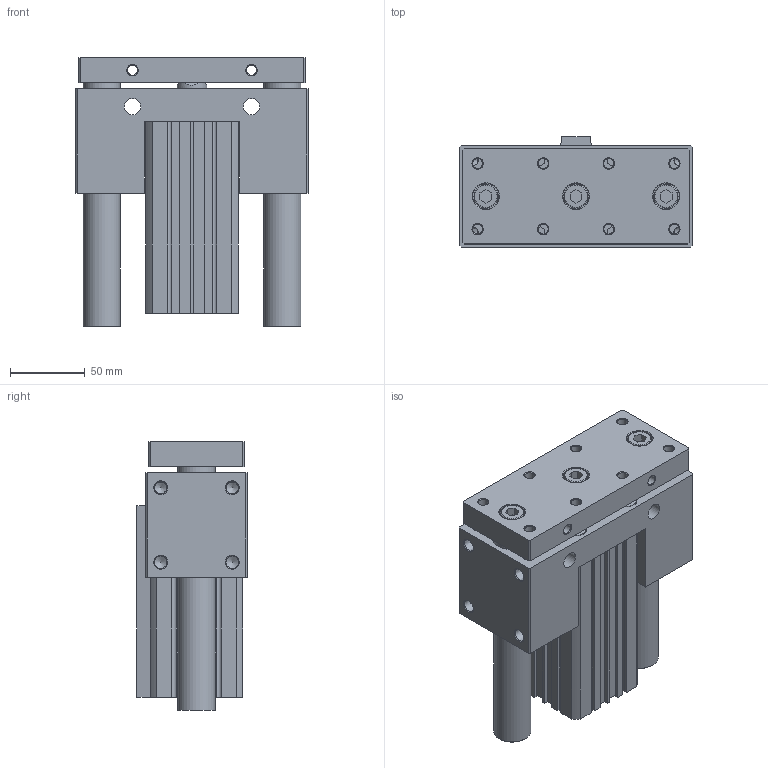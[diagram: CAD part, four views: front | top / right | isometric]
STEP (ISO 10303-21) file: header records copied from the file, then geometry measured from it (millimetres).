
FILE_DESCRIPTION((''),'2;1');
FILE_NAME('I:\3D電子目錄\氣缸\JCB\JCB\JCB50-S\JCB50x90-S.stp','2007-08-30T16:35:42',('Administrator'),(''),'Autodesk Inventor 11','Autodesk Inventor 11','');
FILE_SCHEMA(('AUTOMOTIVE_DESIGN { 1 0 10303 214 1 1 1 1 }'));
Length unit declared in the file: millimetre
Products named in the file (1): JCB50
Bounding box: 156 x 74 x 180.5 mm (x, y, z)
Volume: 1180503.4 mm3; surface area: 205434 mm2
Topology: 3 solids, 3 shells, 328 faces, 786 edges, 510 vertices
Faces by surface type: plane 190, cylinder 58, cone 45, bspline 31, torus 4
Full cylindrical faces by diameter (mm): 2.7 x2, 6.8 x4, 8.376 x4, 11 x8, 13 x4, 14 x4, 16 x3, 17.5 x3, 20 x1, 21 x1, 25 x2, 28 x2, 37 x1, 38 x1, 52 x4, 55 x2
Entity records: 9390 total; most frequent: CARTESIAN_POINT 2294, DIRECTION 1434, ORIENTED_EDGE 1264, EDGE_CURVE 632, EDGE_LOOP 536, AXIS2_PLACEMENT_3D 512, VERTEX_POINT 480, VECTOR 410
